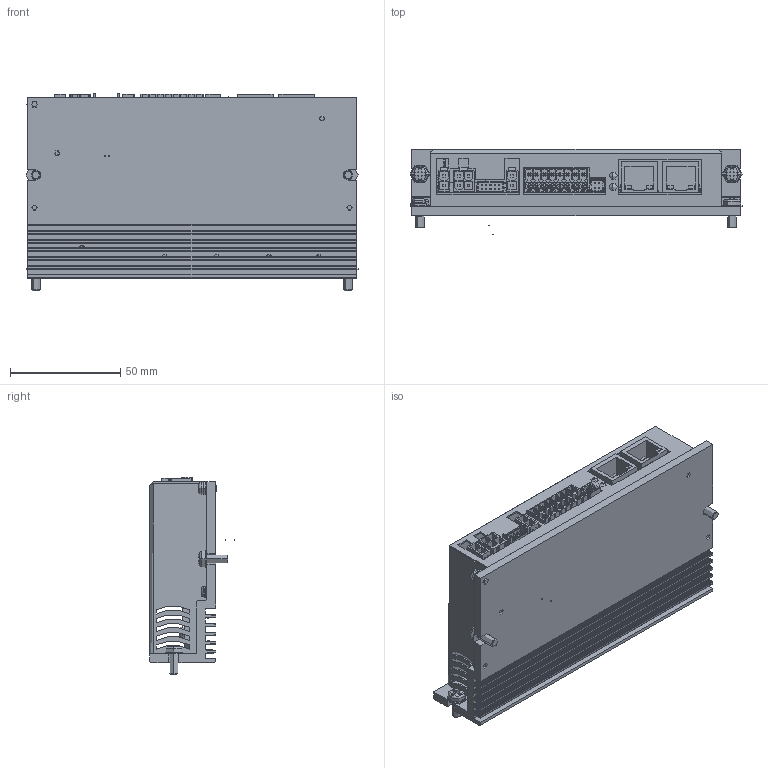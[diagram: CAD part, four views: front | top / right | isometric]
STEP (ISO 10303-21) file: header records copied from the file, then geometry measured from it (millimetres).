
FILE_DESCRIPTION((''),'2;1');
FILE_NAME('SW4_ETHERCAT_ASM','2018-02-02T08:46:40',('Matteo Maccalli'),(''),'CREO PARAMETRIC BY PTC INC, 2017260','CREO PARAMETRIC BY PTC INC, 2017260','');
FILE_SCHEMA(('CONFIG_CONTROL_DESIGN'));
Products named in the file (90): ESTRUSO_IMD03-00; AD_00907-00_IMD03_00; SCATOLA_SW4_EMD00_00_ETHERCAT; PRT0001; PRT0002; ASM0004_ASM; PRT0003; ASM0005_ASM; PRT0004; ASM0006_ASM; USER_LIBRARY-TO252AA; ASM0007_ASM; ASM0008_ASM; ASM0009_ASM; ASM0010_ASM; ASM0011_ASM; ASM0012_ASM; ASM0013_ASM; MANIFOLD_SOLID_BREP_26701; MANIFOLD_SOLID_BREP_28186; MANIFOLD_SOLID_BREP_29625; MANIFOLD_SOLID_BREP_29691; MANIFOLD_SOLID_BREP_29765; MANIFOLD_SOLID_BREP_30279; MANIFOLD_SOLID_BREP_30793; MANIFOLD_SOLID_BREP_31577; MANIFOLD_SOLID_BREP_35326; ASM0015_ASM; ASM0014_ASM; PRT0005; ASM0016_ASM; PRT0006; CN5B_ASM; J0011D01BNL; ASM0017_ASM; PRT0007; ASM0019_ASM; ASM0018_ASM; SOLID-87708; COMPOUND-96274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
Assembly tree (101 placements, depth 6):
  SW4_ETHERCAT_ASM
    ESTRUSO_IMD03-00
    AD_00907-00_IMD03_00
    SCATOLA_SW4_EMD00_00_ETHERCAT
    EMD00_00_ETHERCAT_ASM
      ASM0003_ASM
        PRT0001
        ASM0004_ASM
          PRT0002
        ASM0005_ASM
          PRT0003
        ASM0006_ASM
          PRT0004
        ASM0007_ASM
          USER_LIBRARY-TO252AA
        ASM0008_ASM
          USER_LIBRARY-TO252AA
        ASM0009_ASM
          USER_LIBRARY-TO252AA
        ASM0010_ASM
          USER_LIBRARY-TO252AA
        ASM0011_ASM
          USER_LIBRARY-TO252AA
        ASM0012_ASM
          USER_LIBRARY-TO252AA
        ASM0013_ASM
          USER_LIBRARY-TO252AA
        ASM0014_ASM
          ASM0015_ASM
            MANIFOLD_SOLID_BREP_26701
            MANIFOLD_SOLID_BREP_28186
            MANIFOLD_SOLID_BREP_29625
            MANIFOLD_SOLID_BREP_29691
            MANIFOLD_SOLID_BREP_29765
            MANIFOLD_SOLID_BREP_30279
            MANIFOLD_SOLID_BREP_30793
            MANIFOLD_SOLID_BREP_31577
            MANIFOLD_SOLID_BREP_35326
        ASM0016_ASM
          PRT0005
        CN5B_ASM
          PRT0006
        ASM0017_ASM
          J0011D01BNL
        ASM0018_ASM
          ASM0019_ASM
            PRT0007
        ASM0020_ASM
          ASM0021_ASM
            SOLID-87708
            COMPOUND-96274
        ASM0022_ASM
          ASM0023_ASM
            SOLID-96436
            COMPOUND-102682
        ASM0024_ASM
          MOLEX_039300020_ASM
            SOLID-96436
            COMPOUND-102682
        ASM0025_ASM
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Bounding box: 150.5 x 38.52 x 89.49 mm (x, y, z)
Topology: 44 solids, 262 shells, 4490 faces, 14339 edges, 9629 vertices
Faces by surface type: plane 3507, cylinder 678, torus 142, sphere 84, cone 36, extrusion 28, bspline 14, revolution 1
Full cylindrical faces by diameter (mm): 0.2 x20, 0.316 x2, 0.336 x4, 0.4 x4, 0.422 x2, 0.457 x4, 0.5 x8, 0.6 x34, 1 x16, 1.902 x2, 2.5 x8, 3 x2, 3.5 x6
Entity records: 176816 total; most frequent: CARTESIAN_POINT 65617, ORIENTED_EDGE 22302, DIRECTION 20883, EDGE_CURVE 12910, VECTOR 9072, LINE 9044, VERTEX_POINT 8775, AXIS2_PLACEMENT_3D 5905
